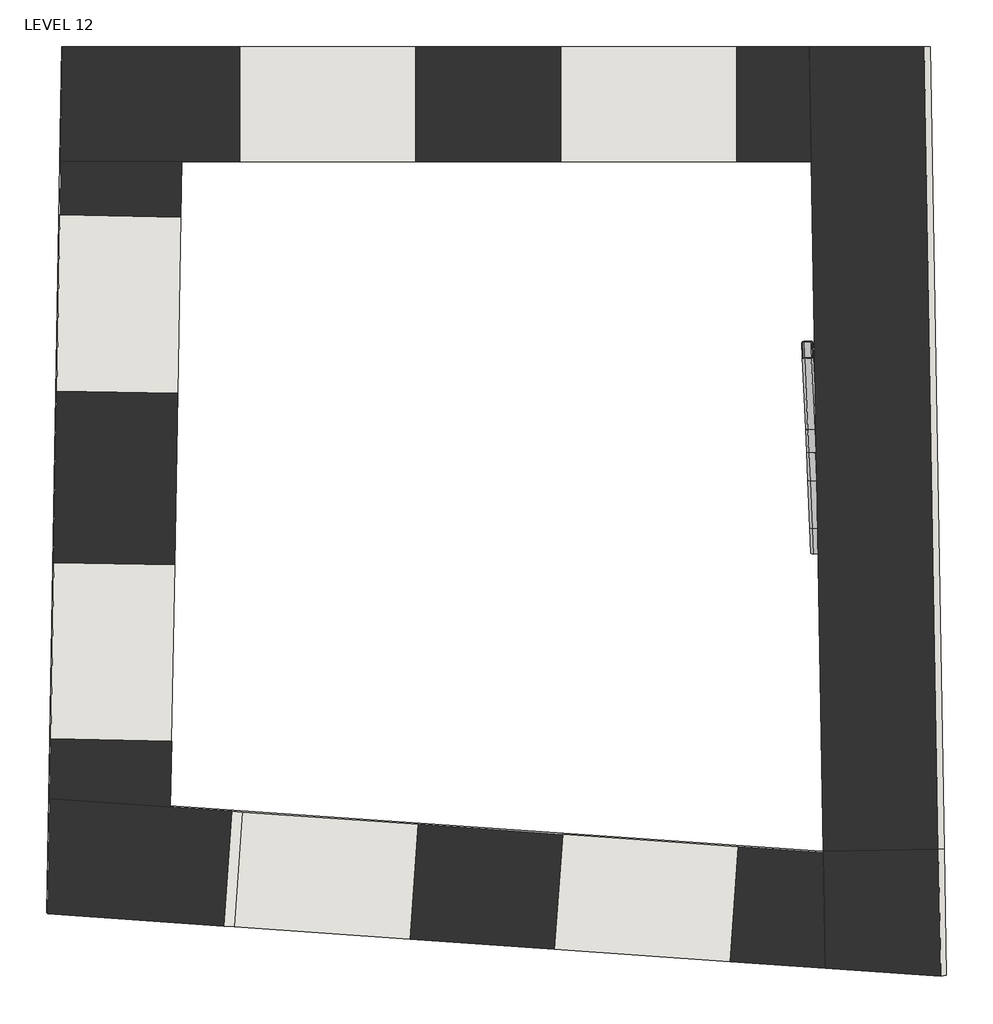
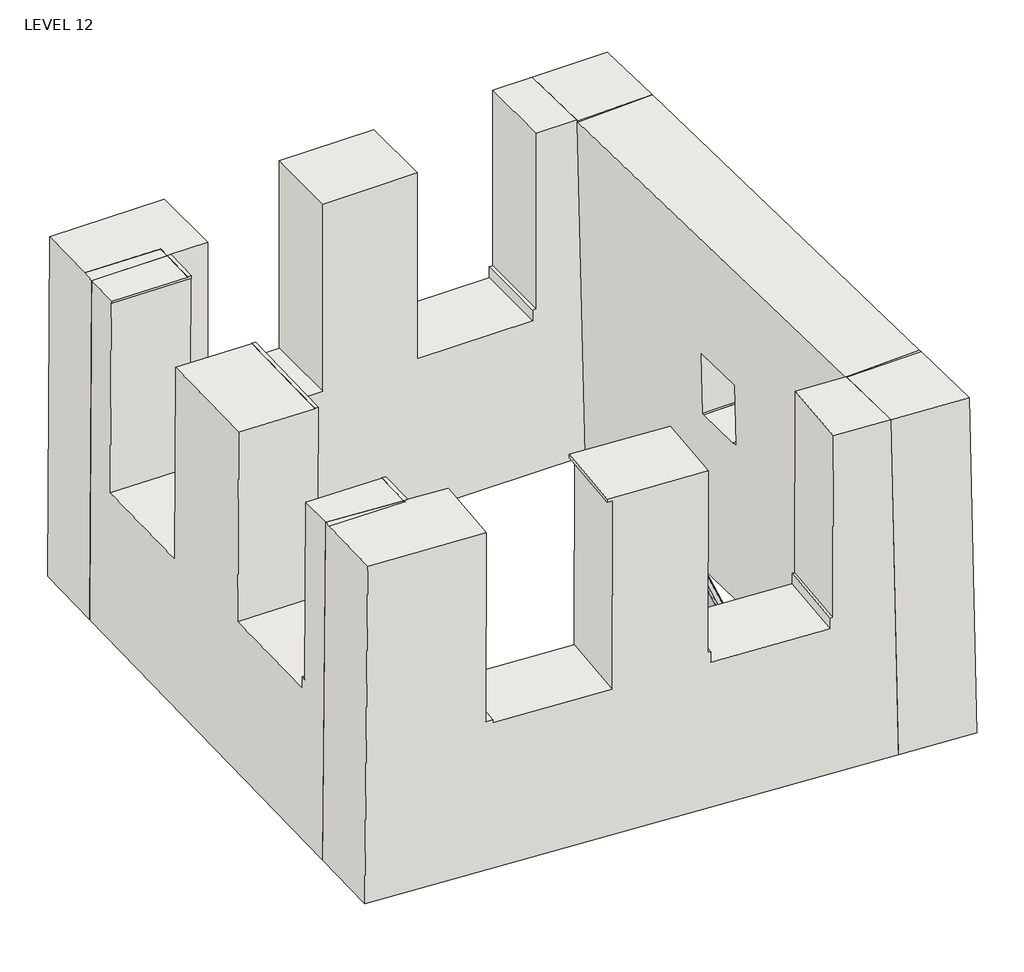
# One storey: 6 walls, 5 beams.
"""IFC4 building model written with IfcOpenShell, lengths in millimetres."""

from ifc_helpers import new_model, si_unit, frame, origin, place, context, project, spatial, polyline, circle_curve, ellipse_curve, faceted_brep, transform, mapped, element, save
from ifc_brep_helpers import plane_surface, cylinder_surface, revolved_surface, advanced_brep
from components import rectangular_and_square_hollow_sections_ba02adca, rectangular_and_square_hollow_sections_e31bbb35, rectangular_and_square_hollow_sections_c0d7c366

model = new_model("IFC4")

# Units and contexts
model_context = context("Model", 3, world=origin())
ifc_project = project(units=[si_unit("LENGTHUNIT", "METRE", prefix="MILLI")], contexts=[model_context])

# Site, building, storey
site = spatial("IfcSite", under=ifc_project)
building = spatial("IfcBuilding", under=site)
storey = spatial("IfcBuildingStorey", under=building, Name="LEVEL 12", Elevation=2600.7172067)

# Beams
placement = place(None, origin())
element("IfcBeam", 1, ObjectType="Rectangular and Square Hollow Sections : TREC160x60x6", at=placement, inside=storey, context=model_context, shape_type="AdvancedBrep", body=[
    advanced_brep(
    [(2527.9925591, 521.6732964, 2470.6420276), (2524.9130539, 593.6290292, 2355.2778687), (2536.6303583, 600.4911614, 2345.0986782), (2572.5974347, 602.0304523, 2345.0986782), (2584.8581812, 596.194514, 2355.2778687), (2587.9376864, 524.2387811, 2470.6420276), (2576.220382, 517.3766489, 2480.8212181), (2540.2533056, 515.837358, 2480.8212181), (2576.0845215, 520.5511665, 2475.7316229), (2581.9431737, 523.9822326, 2470.6420276), (2578.8636684, 595.9379655, 2355.2778687), (2572.7332952, 598.8559346, 2350.1882735), (2536.7662188, 597.3166438, 2350.1882735), (2530.9075666, 593.8855777, 2355.2778687), (2533.9870718, 521.9298448, 2470.6420276), (2540.1174451, 519.0118757, 2475.7316229), (2533.7516575, 667.7548965, 2575.7498318), (2521.4841399, 673.7490481, 2565.6695039), (2569.7187515, 669.2937753, 2575.7495743), (2581.4292966, 676.3138461, 2565.6690748), (2578.273119, 750.0611057, 2451.4243861), (2566.0056014, 756.0552572, 2441.3440582), (2530.0385073, 754.5163784, 2441.3443157), (2518.3279623, 747.4963077, 2451.4248152), (2533.6124143, 671.0084521, 2570.709625), (2569.5795084, 672.5473309, 2570.7093675), (2527.4786555, 674.0055279, 2565.669461), (2524.3224779, 747.7527875, 2451.4247723), (2530.1777505, 751.2628229, 2446.3845225), (2566.1448445, 752.8017017, 2446.384265), (2572.2786033, 749.8046259, 2451.424429), (2575.4347809, 676.0573663, 2565.6691177)],
    [
        (0, 1),
        (1, 2, circle_curve(frame((2536.9020793, 594.1421262, 2355.2778687), z_axis=(0.03627021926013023, -0.8474900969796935, -0.5295705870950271), x_axis=(0.9990854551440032, 0.042758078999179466, 0.0)), 12.0)),
        (2, 3),
        (3, 4, circle_curve(frame((2572.8691557, 595.681417, 2355.2778687), z_axis=(0.03627021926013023, -0.8474900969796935, -0.5295705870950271), x_axis=(0.9990854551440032, 0.042758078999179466, 0.0)), 12.0)),
        (4, 5),
        (5, 6, circle_curve(frame((2575.948661, 523.7256841, 2470.6420276), z_axis=(0.03627021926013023, -0.8474900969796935, -0.5295705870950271), x_axis=(0.9990854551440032, 0.042758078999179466, 0.0)), 12.0)),
        (6, 7),
        (7, 0, circle_curve(frame((2539.9815846, 522.1863933, 2470.6420276), z_axis=(0.03627021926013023, -0.8474900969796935, -0.5295705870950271), x_axis=(0.9990854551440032, 0.042758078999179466, 0.0)), 12.0)),
        (8, 9, circle_curve(frame((2575.948661, 523.7256841, 2470.6420276), z_axis=(-0.03627021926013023, 0.8474900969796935, 0.5295705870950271), x_axis=(0.9990854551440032, 0.042758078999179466, 0.0)), 6.0)),
        (9, 10),
        (10, 11, circle_curve(frame((2572.8691557, 595.681417, 2355.2778687), z_axis=(-0.03627021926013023, 0.8474900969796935, 0.5295705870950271), x_axis=(0.9990854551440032, 0.042758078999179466, 0.0)), 6.0)),
        (11, 12),
        (12, 13, circle_curve(frame((2536.9020793, 594.1421262, 2355.2778687), z_axis=(-0.03627021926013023, 0.8474900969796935, 0.5295705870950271), x_axis=(0.9990854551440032, 0.042758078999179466, 0.0)), 6.0)),
        (13, 14),
        (14, 15, circle_curve(frame((2539.9815846, 522.1863933, 2470.6420276), z_axis=(-0.03627021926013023, 0.8474900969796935, 0.5295705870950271), x_axis=(0.9990854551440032, 0.042758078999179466, 0.0)), 6.0)),
        (15, 8),
        (16, 17, ellipse_curve(frame((2533.4731712, 674.2620077, 2565.6694181), z_axis=(0.03590043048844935, -0.8391654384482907, -0.5426900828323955), x_axis=(-0.02407237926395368, 0.5421564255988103, -0.8399326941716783)), 12.0014495, 12.0)),
        (17, 0),
        (7, 16),
        (18, 16),
        (6, 18),
        (19, 18, ellipse_curve(frame((2569.4402652, 675.8008865, 2565.6691606), z_axis=(0.03590043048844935, -0.8391654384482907, -0.5426900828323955), x_axis=(-0.02407237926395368, 0.5421564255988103, -0.8399326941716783)), 12.0014495, 12.0)),
        (5, 19),
        (20, 19),
        (4, 20),
        (21, 20, ellipse_curve(frame((2566.2840876, 749.5481461, 2451.4244719), z_axis=(0.03590043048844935, -0.8391654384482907, -0.5426900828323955), x_axis=(-0.02407237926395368, 0.5421564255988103, -0.8399326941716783)), 12.0014495, 12.0)),
        (3, 21),
        (22, 21),
        (2, 22),
        (23, 22, ellipse_curve(frame((2530.3169936, 748.0092673, 2451.4247294), z_axis=(0.03590043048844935, -0.8391654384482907, -0.5426900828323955), x_axis=(-0.02407237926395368, 0.5421564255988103, -0.8399326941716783)), 12.0014495, 12.0)),
        (1, 23),
        (17, 23),
        (24, 25),
        (25, 8),
        (15, 24),
        (26, 24, ellipse_curve(frame((2533.4731712, 674.2620077, 2565.6694181), z_axis=(-0.03590043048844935, 0.8391654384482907, 0.5426900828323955), x_axis=(0.02407237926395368, -0.5421564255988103, 0.8399326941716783)), 6.0007248, 6.0)),
        (14, 26),
        (27, 26),
        (13, 27),
        (28, 27, ellipse_curve(frame((2530.3169936, 748.0092673, 2451.4247294), z_axis=(-0.03590043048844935, 0.8391654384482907, 0.5426900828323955), x_axis=(0.02407237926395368, -0.5421564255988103, 0.8399326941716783)), 6.0007248, 6.0)),
        (12, 28),
        (29, 28),
        (11, 29),
        (30, 29, ellipse_curve(frame((2566.2840876, 749.5481461, 2451.4244719), z_axis=(-0.03590043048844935, 0.8391654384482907, 0.5426900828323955), x_axis=(0.02407237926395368, -0.5421564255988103, 0.8399326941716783)), 6.0007248, 6.0)),
        (10, 30),
        (31, 30),
        (9, 31),
        (25, 31, ellipse_curve(frame((2569.4402652, 675.8008865, 2565.6691606), z_axis=(-0.03590043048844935, 0.8391654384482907, 0.5426900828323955), x_axis=(0.02407237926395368, -0.5421564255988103, 0.8399326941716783)), 6.0007248, 6.0)),
    ],
    [
        plane_surface(frame((2556.4253701, 558.9339052, 2412.9599482), z_axis=(0.036270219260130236, -0.8474900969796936, -0.5295705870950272), x_axis=(0.022643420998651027, -0.5290862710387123, 0.8482658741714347))),
        cylinder_surface(frame((2531.4300121, 722.0024716, 2595.5009708), z_axis=(-0.03627021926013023, 0.8474900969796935, 0.5295705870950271), x_axis=(0.9990854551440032, 0.042758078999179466, 0.0)), 12.0),
        plane_surface(frame((2531.7017332, 715.6534364, 2605.6801613), z_axis=(0.02264342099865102, -0.5290862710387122, 0.8482658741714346), x_axis=(0.03627021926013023, -0.8474900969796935, -0.5295705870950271))),
        cylinder_surface(frame((2567.3970885, 723.5417625, 2595.5009708), z_axis=(-0.03627021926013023, 0.8474900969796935, 0.5295705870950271), x_axis=(0.9990854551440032, 0.042758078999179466, 0.0)), 12.0),
        plane_surface(frame((2579.386114, 724.0548594, 2595.5009708), z_axis=(0.9990854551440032, 0.042758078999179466, 0.0), x_axis=(0.03627021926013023, -0.8474900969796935, -0.5295705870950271))),
        cylinder_surface(frame((2564.3175832, 795.4974953, 2480.1368119), z_axis=(-0.03627021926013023, 0.8474900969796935, 0.5295705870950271), x_axis=(0.9990854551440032, 0.042758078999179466, 0.0)), 12.0),
        plane_surface(frame((2564.0458622, 801.8465306, 2469.9576215), z_axis=(-0.02264342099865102, 0.5290862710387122, -0.8482658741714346), x_axis=(0.03627021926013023, -0.8474900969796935, -0.5295705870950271))),
        cylinder_surface(frame((2528.3505069, 793.9582045, 2480.1368119), z_axis=(-0.03627021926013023, 0.8474900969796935, 0.5295705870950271), x_axis=(0.9990854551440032, 0.042758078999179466, 0.0)), 12.0),
        plane_surface(frame((2516.3614814, 793.4451075, 2480.1368119), z_axis=(-0.9990854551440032, -0.042758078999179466, 0.0), x_axis=(0.03627021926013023, -0.8474900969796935, -0.5295705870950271))),
        plane_surface(frame((2567.532949, 720.3672448, 2600.5905661), z_axis=(-0.02264342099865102, 0.5290862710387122, -0.8482658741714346), x_axis=(0.03627021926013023, -0.8474900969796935, -0.5295705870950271))),
        revolved_surface(polyline([(2545.9760972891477, 522.4429417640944, 2470.6420275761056), (2539.4643013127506, 674.597594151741, 2565.7188065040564)]), (2531.4300121, 722.0024716, 2595.5009708), (0.03627021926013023, -0.8474900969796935, -0.5295705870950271)),
        plane_surface(frame((2525.4354994, 721.7459231, 2595.5009708), z_axis=(0.9990854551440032, 0.042758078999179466, 0.0), x_axis=(0.03627021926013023, -0.8474900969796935, -0.5295705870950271))),
        revolved_surface(polyline([(2542.8965920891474, 594.3986746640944, 2355.2778686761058), (2536.3081237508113, 748.3448537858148, 2451.4741177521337)]), (2528.3505069, 793.9582045, 2480.1368119), (0.03627021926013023, -0.8474900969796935, -0.5295705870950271)),
        plane_surface(frame((2528.2146463, 797.1327221, 2475.0472167), z_axis=(0.02264342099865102, -0.5290862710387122, 0.8482658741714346), x_axis=(0.03627021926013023, -0.8474900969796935, -0.5295705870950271))),
        revolved_surface(polyline([(2578.8636683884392, 595.937965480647, 2355.277868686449), (2572.2752176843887, 749.8837325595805, 2451.473860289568)]), (2564.3175832, 795.4974953, 2480.1368119), (0.03627021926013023, -0.8474900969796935, -0.5295705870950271)),
        plane_surface(frame((2570.312096, 795.7540438, 2480.1368119), z_axis=(-0.9990854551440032, -0.042758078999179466, 0.0), x_axis=(0.03627021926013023, -0.8474900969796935, -0.5295705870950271))),
        revolved_surface(polyline([(2581.943173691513, 523.9822326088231, 2470.6420275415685), (2575.4313953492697, 676.1364729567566, 2565.718548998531)]), (2567.3970885, 723.5417625, 2595.5009708), (0.03627021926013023, -0.8474900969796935, -0.5295705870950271)),
        plane_surface(frame((2551.8052792, 668.513206, 2575.7715491), z_axis=(-0.03590043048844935, 0.8391654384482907, 0.5426900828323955), x_axis=(0.9993553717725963, 0.0301458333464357, 0.019495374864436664))),
    ],
    [
        (0, [[1, 2, 3, 4, 5, 6, 7, 8], [9, 10, 11, 12, 13, 14, 15, 16]]),
        (1, [[17, 18, -8, 19]]),
        (2, [[20, -19, -7, 21]]),
        (3, [[22, -21, -6, 23]]),
        (4, [[24, -23, -5, 25]]),
        (5, [[26, -25, -4, 27]]),
        (6, [[28, -27, -3, 29]]),
        (7, [[30, -29, -2, 31]]),
        (8, [[32, -31, -1, -18]]),
        (9, [[33, 34, -16, 35]]),
        (10, [[36, -35, -15, 37]]),
        (11, [[38, -37, -14, 39]]),
        (12, [[40, -39, -13, 41]]),
        (13, [[42, -41, -12, 43]]),
        (14, [[44, -43, -11, 45]]),
        (15, [[46, -45, -10, 47]]),
        (16, [[48, -47, -9, -34]]),
        (17, [[-17, -20, -22, -24, -26, -28, -30, -32], [-33, -36, -38, -40, -42, -44, -46, -48]]),
    ],
),
])
element("IfcBeam", 2, ObjectType="Rectangular and Square Hollow Sections : TREC160x60x6", at=placement, inside=storey, context=model_context, shape_type="AdvancedBrep", body=[
    advanced_brep(
    [(2516.1156026, 799.2567691, 2649.553245), (2528.3893673, 793.1116556, 2659.5328382), (2564.3564929, 794.6497944, 2659.5328382), (2576.060812, 801.8203338, 2649.553245), (2572.8339534, 877.2757001, 2536.451189), (2560.5601887, 883.4208136, 2526.4715958), (2524.593063, 881.8826747, 2526.4715958), (2512.888744, 874.7121354, 2536.451189), (2564.2141315, 797.9787076, 2654.5430416), (2528.2470059, 796.4405688, 2654.5430416), (2522.1101235, 799.5131255, 2649.553245), (2518.8832649, 874.9684918, 2536.451189), (2524.7354244, 878.5537615, 2531.4613924), (2560.7025501, 880.0919004, 2531.4613924), (2566.8394325, 877.0193436, 2536.451189), (2570.0662911, 801.5639773, 2649.553245), (2521.4829365, 673.7495198, 2565.6686949), (2533.7502487, 667.7552886, 2575.7491323), (2569.7173572, 669.2938283, 2575.7494002), (2581.4281174, 676.3137526, 2565.6691413), (2578.2743223, 750.0606339, 2451.4251951), (2566.0070101, 756.0548651, 2441.3447577), (2530.0399016, 754.5163255, 2441.3444898), (2518.3291415, 747.4964012, 2451.4247487), (2569.5782192, 672.5473671, 2570.7092261), (2533.6111107, 671.0088275, 2570.7089582), (2527.4774546, 674.0059431, 2565.6687395), (2524.3236595, 747.7528245, 2451.4247933), (2530.1790396, 751.2627866, 2446.3846639), (2566.1461481, 752.8013263, 2446.3849318), (2572.2798043, 749.8042107, 2451.4251505), (2575.4335993, 676.0573293, 2565.6690967)],
    [
        (0, 1, circle_curve(frame((2528.1046445, 799.769482, 2649.553245), z_axis=(-0.03553240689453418, 0.8308733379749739, 0.5553259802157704), x_axis=(0.9990868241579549, 0.042726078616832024, 0.0)), 12.0)),
        (1, 2),
        (2, 3, circle_curve(frame((2564.0717701, 801.3076208, 2649.553245), z_axis=(-0.03553240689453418, 0.8308733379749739, 0.5553259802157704), x_axis=(0.9990868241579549, 0.042726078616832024, 0.0)), 12.0)),
        (3, 4),
        (4, 5, circle_curve(frame((2560.8449115, 876.7629871, 2536.451189), z_axis=(-0.03553240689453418, 0.8308733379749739, 0.5553259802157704), x_axis=(0.9990868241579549, 0.042726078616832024, 0.0)), 12.0)),
        (5, 6),
        (6, 7, circle_curve(frame((2524.8777859, 875.2248483, 2536.451189), z_axis=(-0.03553240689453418, 0.8308733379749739, 0.5553259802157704), x_axis=(0.9990868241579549, 0.042726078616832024, 0.0)), 12.0)),
        (7, 0),
        (8, 9),
        (9, 10, circle_curve(frame((2528.1046445, 799.769482, 2649.553245), z_axis=(0.03553240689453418, -0.8308733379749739, -0.5553259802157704), x_axis=(0.9990868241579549, 0.042726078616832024, 0.0)), 6.0)),
        (10, 11),
        (11, 12, circle_curve(frame((2524.8777859, 875.2248483, 2536.451189), z_axis=(0.03553240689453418, -0.8308733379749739, -0.5553259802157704), x_axis=(0.9990868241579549, 0.042726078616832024, 0.0)), 6.0)),
        (12, 13),
        (13, 14, circle_curve(frame((2560.8449115, 876.7629871, 2536.451189), z_axis=(0.03553240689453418, -0.8308733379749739, -0.5553259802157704), x_axis=(0.9990868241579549, 0.042726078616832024, 0.0)), 6.0)),
        (14, 15),
        (15, 8, circle_curve(frame((2564.0717701, 801.3076208, 2649.553245), z_axis=(0.03553240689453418, -0.8308733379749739, -0.5553259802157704), x_axis=(0.9990868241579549, 0.042726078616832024, 0.0)), 6.0)),
        (0, 16),
        (16, 17, ellipse_curve(frame((2533.4719727, 674.2623664, 2565.6687841), z_axis=(-0.03590043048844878, 0.839165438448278, 0.5426900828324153), x_axis=(0.02407237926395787, -0.5421564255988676, 0.8399326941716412)), 12.0013715, 12.0)),
        (17, 1),
        (17, 18),
        (18, 2),
        (18, 19, ellipse_curve(frame((2569.4390812, 675.800906, 2565.669052), z_axis=(-0.03590043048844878, 0.839165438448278, 0.5426900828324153), x_axis=(0.02407237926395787, -0.5421564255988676, 0.8399326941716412)), 12.0013715, 12.0)),
        (19, 3),
        (19, 20),
        (20, 4),
        (20, 21, ellipse_curve(frame((2566.2852862, 749.5477874, 2451.4251059), z_axis=(-0.03590043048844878, 0.839165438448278, 0.5426900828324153), x_axis=(0.02407237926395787, -0.5421564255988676, 0.8399326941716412)), 12.0013715, 12.0)),
        (21, 5),
        (21, 22),
        (22, 6),
        (22, 23, ellipse_curve(frame((2530.3181776, 748.0092477, 2451.424838), z_axis=(-0.03590043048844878, 0.839165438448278, 0.5426900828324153), x_axis=(0.02407237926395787, -0.5421564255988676, 0.8399326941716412)), 12.0013715, 12.0)),
        (23, 7),
        (23, 16),
        (8, 24),
        (24, 25),
        (25, 9),
        (25, 26, ellipse_curve(frame((2533.4719727, 674.2623664, 2565.6687841), z_axis=(0.03590043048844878, -0.839165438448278, -0.5426900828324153), x_axis=(-0.02407237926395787, 0.5421564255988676, -0.8399326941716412)), 6.0006858, 6.0)),
        (26, 10),
        (26, 27),
        (27, 11),
        (27, 28, ellipse_curve(frame((2530.3181776, 748.0092477, 2451.424838), z_axis=(0.03590043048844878, -0.839165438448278, -0.5426900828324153), x_axis=(-0.02407237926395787, 0.5421564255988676, -0.8399326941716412)), 6.0006858, 6.0)),
        (28, 12),
        (28, 29),
        (29, 13),
        (29, 30, ellipse_curve(frame((2566.2852862, 749.5477874, 2451.4251059), z_axis=(0.03590043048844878, -0.839165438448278, -0.5426900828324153), x_axis=(-0.02407237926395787, 0.5421564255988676, -0.8399326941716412)), 6.0006858, 6.0)),
        (30, 14),
        (30, 31),
        (31, 15),
        (31, 24, ellipse_curve(frame((2569.4390812, 675.800906, 2565.669052), z_axis=(0.03590043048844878, -0.839165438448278, -0.5426900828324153), x_axis=(-0.02407237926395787, 0.5421564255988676, -0.8399326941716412)), 6.0006858, 6.0)),
    ],
    [
        plane_surface(frame((2544.474778, 838.2662346, 2593.002217), z_axis=(-0.035532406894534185, 0.8308733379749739, 0.5553259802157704), x_axis=(0.023726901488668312, -0.5548188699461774, 0.8316327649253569))),
        cylinder_surface(frame((2528.1046445, 799.769482, 2649.553245), z_axis=(-0.03553240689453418, 0.8308733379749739, 0.5553259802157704), x_axis=(0.9990868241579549, 0.042726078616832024, 0.0)), 12.0),
        plane_surface(frame((2528.3893673, 793.1116556, 2659.5328382), z_axis=(0.023726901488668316, -0.5548188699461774, 0.8316327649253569), x_axis=(0.03553240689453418, -0.8308733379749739, -0.5553259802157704))),
        cylinder_surface(frame((2564.0717701, 801.3076208, 2649.553245), z_axis=(-0.03553240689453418, 0.8308733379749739, 0.5553259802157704), x_axis=(0.9990868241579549, 0.042726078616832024, 0.0)), 12.0),
        plane_surface(frame((2576.060812, 801.8203338, 2649.553245), z_axis=(0.9990868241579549, 0.042726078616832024, 0.0), x_axis=(0.03553240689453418, -0.8308733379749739, -0.5553259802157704))),
        cylinder_surface(frame((2560.8449115, 876.7629871, 2536.451189), z_axis=(-0.03553240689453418, 0.8308733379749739, 0.5553259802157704), x_axis=(0.9990868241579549, 0.042726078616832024, 0.0)), 12.0),
        plane_surface(frame((2560.5601887, 883.4208136, 2526.4715958), z_axis=(-0.023726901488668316, 0.5548188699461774, -0.8316327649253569), x_axis=(0.03553240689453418, -0.8308733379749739, -0.5553259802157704))),
        cylinder_surface(frame((2524.8777859, 875.2248483, 2536.451189), z_axis=(-0.03553240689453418, 0.8308733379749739, 0.5553259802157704), x_axis=(0.9990868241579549, 0.042726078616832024, 0.0)), 12.0),
        plane_surface(frame((2512.888744, 874.7121354, 2536.451189), z_axis=(-0.9990868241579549, -0.042726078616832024, 0.0), x_axis=(0.03553240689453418, -0.8308733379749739, -0.5553259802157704))),
        plane_surface(frame((2564.2141315, 797.9787076, 2654.5430416), z_axis=(-0.023726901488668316, 0.5548188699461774, -0.8316327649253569), x_axis=(0.03553240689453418, -0.8308733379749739, -0.5553259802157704))),
        revolved_surface(polyline([(2539.4697170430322, 674.4433484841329, 2565.61840660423), (2534.0991654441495, 800.0258384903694, 2649.5532450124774)]), (2528.1046445, 799.769482, 2649.553245), (0.03553240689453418, -0.8308733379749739, -0.5553259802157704)),
        plane_surface(frame((2522.1101235, 799.5131255, 2649.553245), z_axis=(0.9990868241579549, 0.042726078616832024, 0.0), x_axis=(0.03553240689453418, -0.8308733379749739, -0.5553259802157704))),
        revolved_surface(polyline([(2536.315922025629, 748.1902298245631, 2451.3744604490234), (2530.872306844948, 875.481204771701, 2536.451189)]), (2524.8777859, 875.2248483, 2536.451189), (0.03553240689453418, -0.8308733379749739, -0.5553259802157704)),
        plane_surface(frame((2524.7354244, 878.5537615, 2531.4613924), z_axis=(0.023726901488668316, -0.5548188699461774, 0.8316327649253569), x_axis=(0.03553240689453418, -0.8308733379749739, -0.5553259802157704))),
        revolved_surface(polyline([(2572.283030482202, 749.728769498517, 2451.3747283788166), (2566.8394324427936, 877.0193436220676, 2536.451189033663)]), (2560.8449115, 876.7629871, 2536.451189), (0.03553240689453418, -0.8308733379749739, -0.5553259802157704)),
        plane_surface(frame((2566.8394325, 877.0193436, 2536.451189), z_axis=(-0.9990868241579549, -0.042726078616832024, 0.0), x_axis=(0.03553240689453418, -0.8308733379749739, -0.5553259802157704))),
        revolved_surface(polyline([(2575.436825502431, 675.9818880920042, 2565.6186744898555), (2570.0662910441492, 801.5639772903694, 2649.5532450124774)]), (2564.0717701, 801.3076208, 2649.553245), (0.03553240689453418, -0.8308733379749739, -0.5553259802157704)),
        plane_surface(frame((2547.9519796, 755.2969478, 2441.3223409), z_axis=(0.03590043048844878, -0.839165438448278, -0.5426900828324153), x_axis=(0.9993553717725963, 0.03014583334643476, 0.019495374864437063))),
    ],
    [
        (0, [[1, 2, 3, 4, 5, 6, 7, 8], [9, 10, 11, 12, 13, 14, 15, 16]]),
        (1, [[-1, 17, 18, 19]]),
        (2, [[-2, -19, 20, 21]]),
        (3, [[-3, -21, 22, 23]]),
        (4, [[-4, -23, 24, 25]]),
        (5, [[-5, -25, 26, 27]]),
        (6, [[-6, -27, 28, 29]]),
        (7, [[-7, -29, 30, 31]]),
        (8, [[-8, -31, 32, -17]]),
        (9, [[-9, 33, 34, 35]]),
        (10, [[-10, -35, 36, 37]]),
        (11, [[-11, -37, 38, 39]]),
        (12, [[-12, -39, 40, 41]]),
        (13, [[-13, -41, 42, 43]]),
        (14, [[-14, -43, 44, 45]]),
        (15, [[-15, -45, 46, 47]]),
        (16, [[-16, -47, 48, -33]]),
        (17, [[-32, -30, -28, -26, -24, -22, -20, -18], [-48, -46, -44, -42, -40, -38, -36, -34]]),
    ],
),
])
rectangular_and_square_hollow_sections_shape = rectangular_and_square_hollow_sections_ba02adca(model_context)
element("IfcBeam", 3, ObjectType="Rectangular and Square Hollow Sections : TREC160x60x6", at=placement, inside=storey, context=model_context, shape_type="MappedRepresentation", body=[
    mapped(rectangular_and_square_hollow_sections_shape, transform((2535.4700489, 1030.8876449, 2726.7277665), x_axis=(-0.03837405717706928, 0.8208399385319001, 0.5698677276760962), y_axis=(-0.9989090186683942, -0.04669874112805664, 0.0), z_axis=(0.026612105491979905, -0.5692460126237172, 0.8217364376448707))),
])
rectangular_and_square_hollow_sections_2_shape = rectangular_and_square_hollow_sections_e31bbb35(model_context)
element("IfcBeam", 4, ObjectType="Rectangular and Square Hollow Sections : TREC160x60x6", at=placement, inside=storey, context=model_context, shape_type="MappedRepresentation", body=[
    mapped(rectangular_and_square_hollow_sections_2_shape, transform((2570.5678204, 228.4813329, 2206.470264), x_axis=(-0.03627021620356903, 0.8474900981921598, 0.5295705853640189), y_axis=(-0.9990854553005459, -0.04275807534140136, 0.0), z_axis=(0.022643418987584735, -0.5290862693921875, 0.8482658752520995))),
])
rectangular_and_square_hollow_sections_3_shape = rectangular_and_square_hollow_sections_c0d7c366(model_context)
element("IfcBeam", 5, ObjectType="Rectangular and Square Hollow Sections : TREC160x60x6", at=placement, inside=storey, context=model_context, shape_type="MappedRepresentation", body=[
    mapped(rectangular_and_square_hollow_sections_3_shape, transform((2562.1540419, 425.0777294, 2329.3173265), x_axis=(-0.03627021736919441, 0.8474900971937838, 0.5295705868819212), y_axis=(-0.9990854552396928, -0.04275807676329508, 0.0), z_axis=(0.022643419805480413, -0.5290862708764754, 0.8482658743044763))),
])

# Walls
element("IfcWall", 6, ObjectType="Roof 62cm", at=placement, inside=storey, context=model_context, shape_type="Brep", body=[
    faceted_brep([(2567.0627958, 2857.1252215, 2448.7919477), (2642.7169408, -1477.0978409, 2448.7919477), (2576.0932678, -1478.2607615, 5385.0854734), (2511.429788, 2226.3075146, 5385.0854734), (2511.1106311, 2226.3019437, 5399.1516202), (2510.9217101, 2237.1252215, 5399.1516202), (2500.0995698, 2857.1252215, 5399.1516202), (2567.0420712, 2857.1252215, 2449.7050604), (2575.6837606, 555.0695275, 3839.3756991), (2563.829967, 554.8626188, 4361.8058758), (2571.8342379, 96.2982482, 4361.8058758), (2583.6880314, 96.505157, 3839.3756991), (2583.1538748, 127.1069684, 3839.3756991), (2583.2206118, 127.1081333, 3836.4344134), (2576.0651251, 537.0456883, 3836.4344134), (2575.9983882, 537.0445234, 3839.3756991), (3262.7821108, -1466.2745631, 2448.7919477), (3187.3168868, 2857.1252215, 2448.7919477), (3120.3536608, 2857.1252215, 5399.1516202), (3131.1758011, 2237.1252215, 5399.1516202), (3195.8392809, -1467.4430546, 5399.1516202), (3183.895137, 565.6858966, 4361.8058758), (3195.7489306, 565.8928053, 3839.3756991), (3196.0635582, 547.8678012, 3839.3756991), (3196.1302951, 547.8689661, 3836.4344134), (3203.2857818, 137.9314111, 3836.4344134), (3203.2190448, 137.9302462, 3839.3756991), (3203.7532014, 107.3284348, 3839.3756991), (3191.8994079, 107.121526, 4361.8058758)], [[[0, 1, 2, 3, 4, 5, 6, 7], [8, 9, 10, 11, 12, 13, 14, 15]], [[16, 17, 18, 19, 20], [21, 22, 23, 24, 25, 26, 27, 28]], [[1, 0, 17, 16]], [[16, 20, 2, 1]], [[18, 6, 5, 4, 19]], [[0, 7, 6, 18, 17]], [[3, 19, 4]], [[19, 3, 2, 20]], [[8, 22, 21, 9]], [[10, 28, 27, 11]], [[22, 8, 15, 23]], [[11, 27, 26, 12]], [[9, 21, 28, 10]], [[25, 13, 12, 26]], [[14, 24, 23, 15]], [[13, 25, 24, 14]]]),
])
element("IfcWall", 7, ObjectType="Roof 62cm", at=placement, inside=storey, context=model_context, shape_type="Brep", body=[
    faceted_brep([(-1503.237503, 2237.1252215, 2449.7050604), (-853.1295783, 2237.1252215, 2449.7050604), (2577.8642115, 2237.1252215, 2449.7050604), (2510.9217101, 2237.1252215, 5399.1516202), (2500.0995698, 2237.1252215, 5399.1516202), (2176.4072936, 2237.1252215, 5399.1516202), (2176.4072936, 2237.1252215, 3869.0335553), (2145.9400583, 2237.1252215, 3869.0335553), (2145.9400583, 2237.1252215, 3776.4364748), (1195.9400583, 2237.1252215, 3776.4364748), (1195.9400583, 2237.1252215, 5399.1516202), (415.9400583, 2237.1252215, 5399.1516202), (415.9400583, 2237.1252215, 3768.609257), (-534.0599417, 2237.1252215, 3768.609257), (-534.0599417, 2237.1252215, 5399.1516202), (-837.6838186, 2237.1252215, 5399.1516202), (-867.6887998, 2237.1252215, 5399.1516202), (-867.7058001, 2237.1252215, 5395.9053226), (-1487.7917434, 2237.1252215, 5399.1516202), (2567.0420712, 2857.1252215, 2449.7050604), (-1492.4153628, 2857.1252215, 2449.7050604), (-1476.9696031, 2857.1252215, 5399.1516202), (-534.0599417, 2857.1252215, 5399.1516202), (-534.0599417, 2857.1252215, 3768.609257), (415.9400583, 2857.1252215, 3768.609257), (415.9400583, 2857.1252215, 5399.1516202), (1195.9400583, 2857.1252215, 5399.1516202), (1195.9400583, 2857.1252215, 3776.4364748), (2145.9400583, 2857.1252215, 3776.4364748), (2145.9400583, 2857.1252215, 3869.0335553), (2176.4072936, 2857.1252215, 3869.0335553), (2176.4072936, 2857.1252215, 5399.1516202), (2500.0995698, 2857.1252215, 5399.1516202), (-1485.9155945, 2344.6097173, 5399.1516202), (-866.0015259, 2333.789077, 5399.1516202), (-866.018521, 2333.7893737, 5395.9053226)], [[[0, 1, 2, 3, 4, 5, 6, 7, 8, 9, 10, 11, 12, 13, 14, 15, 16, 17, 18]], [[19, 20, 21, 22, 23, 24, 25, 26, 27, 28, 29, 30, 31, 32]], [[2, 1, 0, 20, 19]], [[3, 32, 31, 5, 4]], [[22, 21, 33, 34, 16, 15, 14]], [[25, 11, 10, 26]], [[0, 18, 33, 21, 20]], [[33, 35, 34]], [[35, 33, 18, 17]], [[35, 17, 16, 34]], [[3, 2, 19, 32]], [[6, 30, 29, 7]], [[30, 6, 5, 31]], [[28, 8, 7, 29]], [[9, 27, 26, 10]], [[8, 28, 27, 9]], [[24, 12, 11, 25]], [[13, 23, 22, 14]], [[12, 24, 23, 13]]]),
])
element("IfcWall", 8, ObjectType="Roof 62cm", at=placement, inside=storey, context=model_context, shape_type="Brep", body=[
    faceted_brep([(2642.7824448, -1482.0378735, 2449.7050604), (-913.7068424, -1233.343916, 2449.7050604), (-1563.0222277, -1187.9393611, 2449.7050604), (-1547.8651923, -1204.4803627, 5399.1516202), (-928.5348919, -1247.7711169, 5395.9053226), (-928.5182094, -1247.7893227, 5399.1516202), (-898.549807, -1249.8849176, 5399.1516202), (-575.6465441, -1272.4645133, 5399.1516202), (-575.0439742, -1263.8473626, 3749.3933826), (-519.4726841, -1267.7332858, 3749.3933826), (-519.4622847, -1267.584567, 3720.9210855), (428.2235631, -1333.853217, 3720.9210855), (427.6209049, -1342.4716305, 5370.9210855), (381.7246625, -1339.2622526, 5370.9210855), (381.7143513, -1339.4097086, 5399.1516202), (1181.7919664, -1395.3565855, 5399.1516202), (1182.3718189, -1387.0643095, 3811.590804), (1206.2904054, -1388.73686, 3811.590804), (1206.3244807, -1388.2495611, 3718.297172), (2154.0103284, -1454.5182112, 3718.297172), (2153.9762532, -1455.00551, 3811.590804), (2173.9275342, -1456.4006395, 3811.590804), (2173.3476817, -1464.6929156, 5399.1516202), (2576.0286892, -1492.8511146, 5399.1516202), (2576.3470432, -1492.7995454, 5385.0854734), (-1573.8577177, -1808.7041663, 2449.7050604), (2653.6444182, -2104.3199132, 2449.7050604), (2586.8906626, -2115.1331543, 5399.1516202), (2130.0980752, -2083.1911049, 5399.1516202), (2130.6779276, -2074.8988289, 3811.590804), (2110.7266466, -2073.5036994, 3811.590804), (2110.7607218, -2073.0164006, 3718.297172), (1163.0748741, -2006.7477505, 3718.297172), (1163.0407988, -2007.2350493, 3811.590804), (1139.1222123, -2005.5624988, 3811.590804), (1138.5423599, -2013.8547749, 5399.1516202), (338.4647448, -1957.907898, 5399.1516202), (338.4750559, -1957.760442, 5370.9210855), (384.3712983, -1960.9698199, 5370.9210855), (384.9739565, -1952.3514064, 3720.9210855), (-562.7118912, -1886.0827564, 3720.9210855), (-562.7222907, -1886.2314752, 3749.3933826), (-618.2935808, -1882.345552, 3749.3933826), (-618.8961507, -1890.9627027, 5399.1516202), (-1558.7006823, -1825.2451679, 5399.1516202), (-928.8590278, -1267.3147978, 5399.1516202), (-1548.7730965, -1256.4941575, 5399.1516202), (2576.1886267, -1502.0139285, 5399.1516202), (-928.876023, -1267.3145011, 5395.9053226)], [[[0, 1, 2, 3, 4, 5, 6, 7, 8, 9, 10, 11, 12, 13, 14, 15, 16, 17, 18, 19, 20, 21, 22, 23, 24]], [[25, 26, 27, 28, 29, 30, 31, 32, 33, 34, 35, 36, 37, 38, 39, 40, 41, 42, 43, 44]], [[2, 1, 0, 26, 25]], [[44, 43, 7, 6, 5, 45, 46]], [[14, 36, 35, 15]], [[28, 27, 47, 23, 22]], [[3, 2, 25, 44, 46]], [[36, 14, 13, 37]], [[42, 8, 7, 43]], [[8, 42, 41, 9]], [[27, 26, 0, 24, 23, 47]], [[21, 29, 28, 22]], [[34, 16, 15, 35]], [[29, 21, 20, 30]], [[16, 34, 33, 17]], [[48, 46, 45]], [[46, 48, 4, 3]], [[4, 48, 45, 5]], [[32, 18, 17, 33]], [[19, 31, 30, 20]], [[18, 32, 31, 19]], [[40, 10, 9, 41]], [[13, 12, 38, 37]], [[11, 39, 38, 12]], [[10, 40, 39, 11]]]),
])
element("IfcWall", 9, ObjectType="Roof 62cm", at=placement, inside=storey, context=model_context, shape_type="Brep", body=[
    faceted_brep([(2642.7169408, -1477.0978409, 2448.7919477), (2653.6650843, -2104.3165655, 2448.7919477), (2653.6444182, -2104.3199132, 2449.7050604), (2586.8906626, -2115.1331543, 5399.1516202), (2576.1886267, -1502.0139285, 5399.1516202), (2576.5077836, -1502.0083576, 5385.0854734), (2576.0932678, -1478.2607615, 5385.0854734), (3274.6771684, -2147.7419608, 2448.7919477), (3262.7821108, -1466.2745631, 2448.7919477), (3195.8392809, -1467.4430546, 5399.1516202), (3196.2537967, -1491.1906507, 5399.1516202), (3207.9027467, -2158.5585495, 5399.1516202)], [[[0, 1, 2, 3, 4, 5, 6]], [[7, 8, 9, 10, 11]], [[1, 0, 8, 7]], [[3, 11, 10, 4]], [[9, 8, 0, 6]], [[5, 10, 9, 6]], [[10, 5, 4]], [[7, 11, 3, 2, 1]]]),
])
element("IfcWall", 10, ObjectType="Roof 62cm", at=placement, inside=storey, context=model_context, shape_type="Brep", body=[
    faceted_brep([(2279.1527198, 2237.1252215, 2449.7050604), (2577.8642115, 2237.1252215, 2449.7050604), (2510.9217101, 2237.1252215, 5399.1516202), (2500.0995698, 2237.1252215, 5399.1516202), (2279.1527198, 2237.1252215, 5399.1516202), (2279.1527198, 2857.1252215, 2449.7050604), (2279.1527198, 2857.1252215, 5399.1516202), (2500.0995698, 2857.1252215, 5399.1516202), (2567.0420712, 2857.1252215, 2449.7050604)], [[[0, 1, 2, 3, 4]], [[5, 6, 7, 8]], [[1, 0, 5, 8]], [[4, 3, 2, 7, 6]], [[0, 4, 6, 5]], [[2, 1, 8, 7]]]),
])
element("IfcWall", 11, ObjectType="roof wall 3 63cm", at=placement, inside=storey, context=model_context, shape_type="Brep", body=[
    faceted_brep([(-913.7068424, -1233.343916, 2449.7050604), (-853.1295783, 2237.1252215, 2449.7050604), (-837.6838186, 2237.1252215, 5399.1516202), (-842.9866464, 1933.3264196, 5399.1516202), (-843.0890234, 1933.3282066, 5379.596267), (-843.0023134, 1938.2958165, 5379.596267), (-851.6404563, 1938.4465958, 3729.596267), (-868.2202425, 988.5912854, 3729.596267), (-859.4797226, 988.4387191, 5399.1516202), (-875.6082663, 64.4350699, 5399.1516202), (-884.2238299, 64.5854552, 3753.4645715), (-900.803616, -885.2698552, 3753.4645715), (-900.2739551, -885.2791005, 3854.6368428), (-900.9720513, -925.2730083, 3854.6368428), (-892.8861487, -925.4141483, 5399.1516202), (-898.549807, -1249.8849176, 5399.1516202), (-1503.237503, 2237.1252215, 2449.7050604), (-1563.0222277, -1187.9393611, 2449.7050604), (-1547.8651923, -1204.4803627, 5399.1516202), (-1542.7960593, -914.0699286, 5399.1516202), (-1550.881962, -913.9287886, 3854.6368428), (-1550.1838657, -873.9348808, 3854.6368428), (-1550.7135267, -873.9256356, 3753.4645715), (-1534.1337405, 75.9296748, 3753.4645715), (-1525.5181769, 75.7792896, 5399.1516202), (-1509.3896333, 999.7829388, 5399.1516202), (-1518.1301531, 999.9355051, 3729.596267), (-1501.550367, 1949.7908155, 3729.596267), (-1492.9122241, 1949.6400362, 5379.596267), (-1492.998934, 1944.6724263, 5379.596267), (-1492.8965571, 1944.6706393, 5399.1516202), (-1487.7917434, 2237.1252215, 5399.1516202), (-922.8819907, -924.8905689, 5399.1516202), (-928.5182094, -1247.7893227, 5399.1516202), (-867.6887998, 2237.1252215, 5399.1516202), (-872.9824885, 1933.849999, 5399.1516202), (-889.4755646, 988.9622985, 5399.1516202), (-905.6041083, 64.9586493, 5399.1516202), (-928.5348919, -1247.7711169, 5395.9053226), (-872.9994836, 1933.8502956, 5395.9053226), (-867.7058001, 2237.1252215, 5395.9053226), (-922.8989858, -924.8902722, 5395.9053226), (-905.6211035, 64.958946, 5395.9053226), (-889.4925598, 988.9625951, 5395.9053226)], [[[0, 1, 2, 3, 4, 5, 6, 7, 8, 9, 10, 11, 12, 13, 14, 15]], [[16, 17, 18, 19, 20, 21, 22, 23, 24, 25, 26, 27, 28, 29, 30, 31]], [[1, 0, 17, 16]], [[15, 14, 32, 33]], [[3, 2, 34, 35]], [[9, 8, 36, 37]], [[17, 0, 15, 33, 38, 18]], [[39, 40, 31, 30]], [[40, 39, 35, 34]], [[13, 20, 19, 41, 32, 14]], [[20, 13, 12, 21]], [[42, 43, 25, 24]], [[43, 42, 37, 36]], [[7, 26, 25, 43, 36, 8]], [[4, 3, 35, 39, 30, 29]], [[38, 41, 19, 18]], [[41, 38, 33, 32]], [[1, 16, 31, 40, 34, 2]], [[27, 6, 5, 28]], [[28, 5, 4, 29]], [[6, 27, 26, 7]], [[23, 10, 9, 37, 42, 24]], [[11, 22, 21, 12]], [[10, 23, 22, 11]]]),
])

save(model, "model.ifc")
